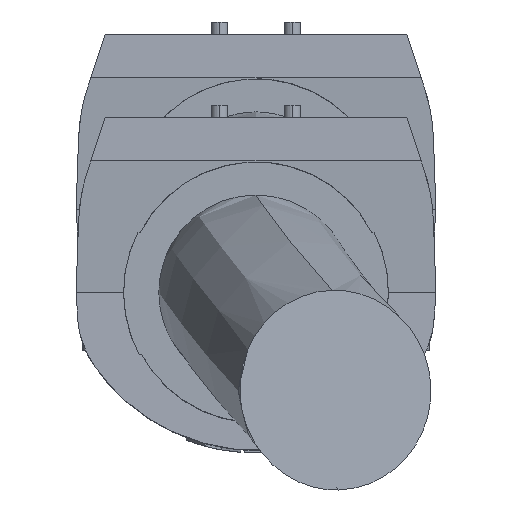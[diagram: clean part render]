
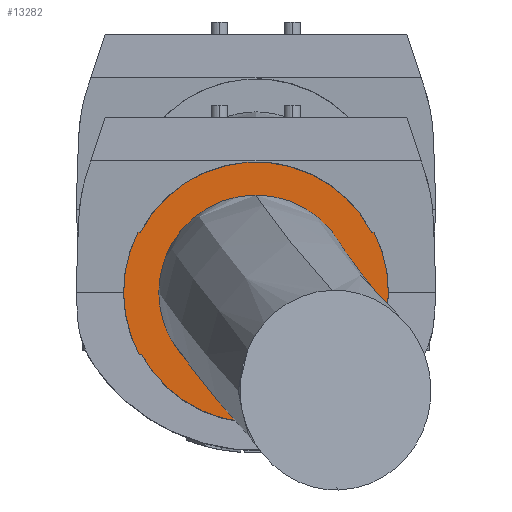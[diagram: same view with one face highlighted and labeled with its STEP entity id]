
A CAD part, top view. The second image highlights one B-rep face of the part: STEP entity #13282.
In plain terms, the highlighted planar face has unit normal (0, 0, 1).
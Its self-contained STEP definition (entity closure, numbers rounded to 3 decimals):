
#54 = DIRECTION ( 'NONE',  ( 0., 0., 1. ) ) ;
#85 = CIRCLE ( 'NONE', #11518, 54.477 ) ;
#186 = DIRECTION ( 'NONE',  ( 0., -1., 0. ) ) ;
#480 = LINE ( 'NONE', #12575, #10121 ) ;
#667 = VERTEX_POINT ( 'NONE', #2228 ) ;
#686 = FACE_OUTER_BOUND ( 'NONE', #7194, .T. ) ;
#747 = DIRECTION ( 'NONE',  ( 0., -1., 0. ) ) ;
#787 = LINE ( 'NONE', #12526, #14047 ) ;
#1329 = CIRCLE ( 'NONE', #3855, 53.6 ) ;
#1615 = DIRECTION ( 'NONE',  ( 0.07, 0.998, 0. ) ) ;
#1728 = AXIS2_PLACEMENT_3D ( 'NONE', #6267, #2979, #747 ) ;
#1745 = EDGE_CURVE ( 'NONE', #3399, #667, #787, .T. ) ;
#1841 = CARTESIAN_POINT ( 'NONE',  ( 388., -512., 1716.476 ) ) ;
#1843 = ORIENTED_EDGE ( 'NONE', *, *, #2792, .T. ) ;
#1847 = EDGE_CURVE ( 'NONE', #12738, #13287, #3504, .T. ) ;
#2060 = VERTEX_POINT ( 'NONE', #4122 ) ;
#2199 = CARTESIAN_POINT ( 'NONE',  ( 339.954, -537.678, 1716.476 ) ) ;
#2214 = DIRECTION ( 'NONE',  ( 0., -1., 0. ) ) ;
#2228 = CARTESIAN_POINT ( 'NONE',  ( 340.419, -487.322, 1716.476 ) ) ;
#2466 = VERTEX_POINT ( 'NONE', #13116 ) ;
#2616 = EDGE_LOOP ( 'NONE', ( #9128, #5449 ) ) ;
#2754 = EDGE_CURVE ( 'NONE', #12008, #4404, #6944, .T. ) ;
#2792 = EDGE_CURVE ( 'NONE', #2060, #13287, #7826, .T. ) ;
#2802 = DIRECTION ( 'NONE',  ( 1., 0., 0. ) ) ;
#2979 = DIRECTION ( 'NONE',  ( 0., 0., 1. ) ) ;
#2983 = DIRECTION ( 'NONE',  ( -1., 0., 0. ) ) ;
#3053 = AXIS2_PLACEMENT_3D ( 'NONE', #5503, #8576, #8712 ) ;
#3129 = VERTEX_POINT ( 'NONE', #2199 ) ;
#3259 = EDGE_CURVE ( 'NONE', #4404, #667, #1329, .T. ) ;
#3331 = EDGE_CURVE ( 'NONE', #2060, #3129, #12495, .T. ) ;
#3399 = VERTEX_POINT ( 'NONE', #12643 ) ;
#3504 = LINE ( 'NONE', #13540, #10161 ) ;
#3617 = ORIENTED_EDGE ( 'NONE', *, *, #3259, .T. ) ;
#3855 = AXIS2_PLACEMENT_3D ( 'NONE', #11205, #12285, #186 ) ;
#3858 = DIRECTION ( 'NONE',  ( 0., -1., 0. ) ) ;
#4122 = CARTESIAN_POINT ( 'NONE',  ( 340.951, -537.678, 1716.476 ) ) ;
#4298 = DIRECTION ( 'NONE',  ( 0., 0., 1. ) ) ;
#4395 = CARTESIAN_POINT ( 'NONE',  ( 435.581, -487.322, 1716.476 ) ) ;
#4404 = VERTEX_POINT ( 'NONE', #8425 ) ;
#4535 = VECTOR ( 'NONE', #2983, 1000. ) ;
#4664 = AXIS2_PLACEMENT_3D ( 'NONE', #11071, #54, #11144 ) ;
#4854 = DIRECTION ( 'NONE',  ( 1., 0., 0. ) ) ;
#4925 = CARTESIAN_POINT ( 'NONE',  ( 435.049, -537.678, 1716.476 ) ) ;
#4958 = ORIENTED_EDGE ( 'NONE', *, *, #3331, .F. ) ;
#5449 = ORIENTED_EDGE ( 'NONE', *, *, #7930, .F. ) ;
#5503 = CARTESIAN_POINT ( 'NONE',  ( 388., -512., 1716.476 ) ) ;
#6058 = DIRECTION ( 'NONE',  ( 0., 1., 0. ) ) ;
#6102 = CARTESIAN_POINT ( 'NONE',  ( 436.567, -487.322, 1716.476 ) ) ;
#6267 = CARTESIAN_POINT ( 'NONE',  ( 388., -512., 1716.476 ) ) ;
#6389 = EDGE_CURVE ( 'NONE', #12008, #12550, #480, .T. ) ;
#6877 = ORIENTED_EDGE ( 'NONE', *, *, #2754, .T. ) ;
#6944 = CIRCLE ( 'NONE', #12422, 53.6 ) ;
#6961 = ORIENTED_EDGE ( 'NONE', *, *, #6389, .F. ) ;
#7063 = CARTESIAN_POINT ( 'NONE',  ( 346.601, -509.107, 1716.476 ) ) ;
#7194 = EDGE_LOOP ( 'NONE', ( #9409, #13451, #4958, #1843, #8260, #8352, #6961, #6877, #3617 ) ) ;
#7571 = VERTEX_POINT ( 'NONE', #9696 ) ;
#7826 = CIRCLE ( 'NONE', #3053, 53.6 ) ;
#7928 = AXIS2_PLACEMENT_3D ( 'NONE', #9401, #13777, #6058 ) ;
#7930 = EDGE_CURVE ( 'NONE', #7571, #2466, #8992, .T. ) ;
#8167 = EDGE_CURVE ( 'NONE', #12738, #12550, #85, .T. ) ;
#8193 = CARTESIAN_POINT ( 'NONE',  ( 288., -537.678, 1716.476 ) ) ;
#8260 = ORIENTED_EDGE ( 'NONE', *, *, #1847, .F. ) ;
#8352 = ORIENTED_EDGE ( 'NONE', *, *, #8167, .T. ) ;
#8425 = CARTESIAN_POINT ( 'NONE',  ( 384.292, -458.529, 1716.476 ) ) ;
#8576 = DIRECTION ( 'NONE',  ( 0., 0., 1. ) ) ;
#8712 = DIRECTION ( 'NONE',  ( 0., -1., 0. ) ) ;
#8992 = CIRCLE ( 'NONE', #4664, 40. ) ;
#9128 = ORIENTED_EDGE ( 'NONE', *, *, #10860, .F. ) ;
#9295 = DIRECTION ( 'NONE',  ( 0., 0., 1. ) ) ;
#9401 = CARTESIAN_POINT ( 'NONE',  ( 388., -512., 1716.476 ) ) ;
#9409 = ORIENTED_EDGE ( 'NONE', *, *, #1745, .F. ) ;
#9509 = CIRCLE ( 'NONE', #1728, 54.477 ) ;
#9696 = CARTESIAN_POINT ( 'NONE',  ( 388., -552., 1716.476 ) ) ;
#9779 = EDGE_CURVE ( 'NONE', #3399, #3129, #9509, .T. ) ;
#10100 = AXIS2_PLACEMENT_3D ( 'NONE', #7063, #11415, #1615 ) ;
#10121 = VECTOR ( 'NONE', #4854, 1000. ) ;
#10161 = VECTOR ( 'NONE', #11074, 1000. ) ;
#10717 = CARTESIAN_POINT ( 'NONE',  ( 436.046, -537.678, 1716.476 ) ) ;
#10860 = EDGE_CURVE ( 'NONE', #2466, #7571, #14123, .T. ) ;
#11071 = CARTESIAN_POINT ( 'NONE',  ( 388., -512., 1716.476 ) ) ;
#11074 = DIRECTION ( 'NONE',  ( -1., 0., 0. ) ) ;
#11144 = DIRECTION ( 'NONE',  ( 0., 1., 0. ) ) ;
#11205 = CARTESIAN_POINT ( 'NONE',  ( 388., -512., 1716.476 ) ) ;
#11415 = DIRECTION ( 'NONE',  ( 0., 0., -1. ) ) ;
#11518 = AXIS2_PLACEMENT_3D ( 'NONE', #1841, #9295, #3858 ) ;
#12008 = VERTEX_POINT ( 'NONE', #4395 ) ;
#12285 = DIRECTION ( 'NONE',  ( 0., 0., 1. ) ) ;
#12422 = AXIS2_PLACEMENT_3D ( 'NONE', #14109, #4298, #2214 ) ;
#12426 = FACE_BOUND ( 'NONE', #2616, .T. ) ;
#12495 = LINE ( 'NONE', #8193, #4535 ) ;
#12526 = CARTESIAN_POINT ( 'NONE',  ( 288., -487.322, 1716.476 ) ) ;
#12550 = VERTEX_POINT ( 'NONE', #6102 ) ;
#12575 = CARTESIAN_POINT ( 'NONE',  ( 288., -487.322, 1716.476 ) ) ;
#12643 = CARTESIAN_POINT ( 'NONE',  ( 339.433, -487.322, 1716.476 ) ) ;
#12738 = VERTEX_POINT ( 'NONE', #10717 ) ;
#13116 = CARTESIAN_POINT ( 'NONE',  ( 388., -472., 1716.476 ) ) ;
#13282 = ADVANCED_FACE ( 'NONE', ( #12426, #686 ), #13598, .F. ) ;
#13287 = VERTEX_POINT ( 'NONE', #4925 ) ;
#13451 = ORIENTED_EDGE ( 'NONE', *, *, #9779, .T. ) ;
#13540 = CARTESIAN_POINT ( 'NONE',  ( 288., -537.678, 1716.476 ) ) ;
#13598 = PLANE ( 'NONE',  #10100 ) ;
#13777 = DIRECTION ( 'NONE',  ( 0., 0., 1. ) ) ;
#14047 = VECTOR ( 'NONE', #2802, 1000. ) ;
#14109 = CARTESIAN_POINT ( 'NONE',  ( 388., -512., 1716.476 ) ) ;
#14123 = CIRCLE ( 'NONE', #7928, 40. ) ;
